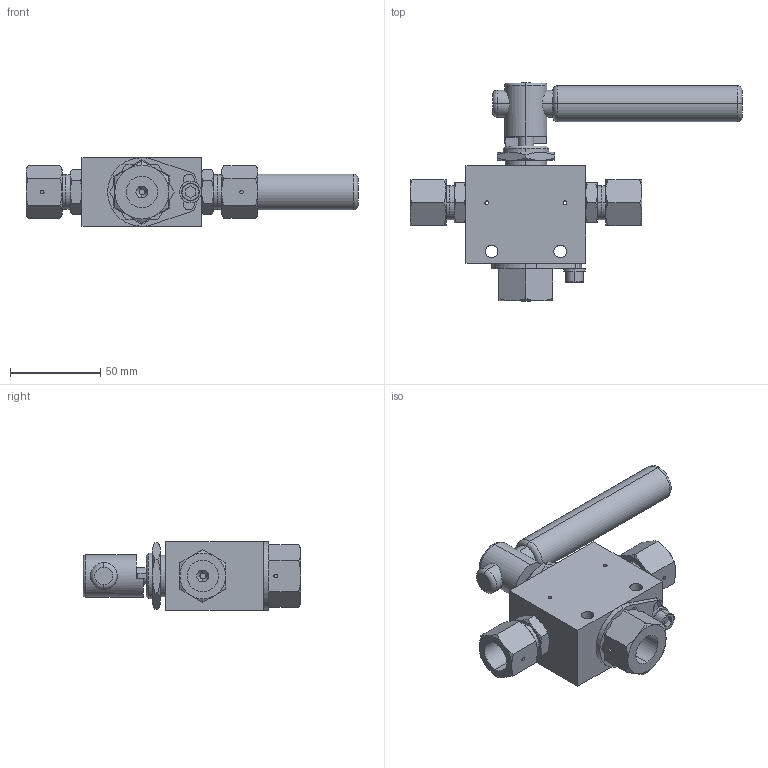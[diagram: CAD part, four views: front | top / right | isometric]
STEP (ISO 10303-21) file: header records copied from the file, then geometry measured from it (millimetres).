
FILE_DESCRIPTION (( 'STEP AP203' ), '1' );
FILE_NAME ('BV6003S06-3-180(贗董蹺陛).STEP', '2025-08-28T00:39:53', ( '' ), ( '' ), 'SwSTEP 2.0', 'SolidWorks 2023', '' );
FILE_SCHEMA (( 'CONFIG_CONTROL_DESIGN' ));
Length unit declared in the file: millimetre
Products named in the file (1): BV6003S06-3-180(클립추가)
Bounding box: 184.34 x 121 x 38 mm (x, y, z)
Volume: 224624 mm3; surface area: 43562.5 mm2
Topology: 1 solids, 1 shells, 286 faces, 670 edges, 404 vertices
Faces by surface type: plane 111, cone 96, cylinder 69, torus 10
Entity records: 8954 total; most frequent: CARTESIAN_POINT 2441, DIRECTION 1341, ORIENTED_EDGE 1332, EDGE_CURVE 666, AXIS2_PLACEMENT_3D 542, VERTEX_POINT 404, EDGE_LOOP 326, ADVANCED_FACE 286
